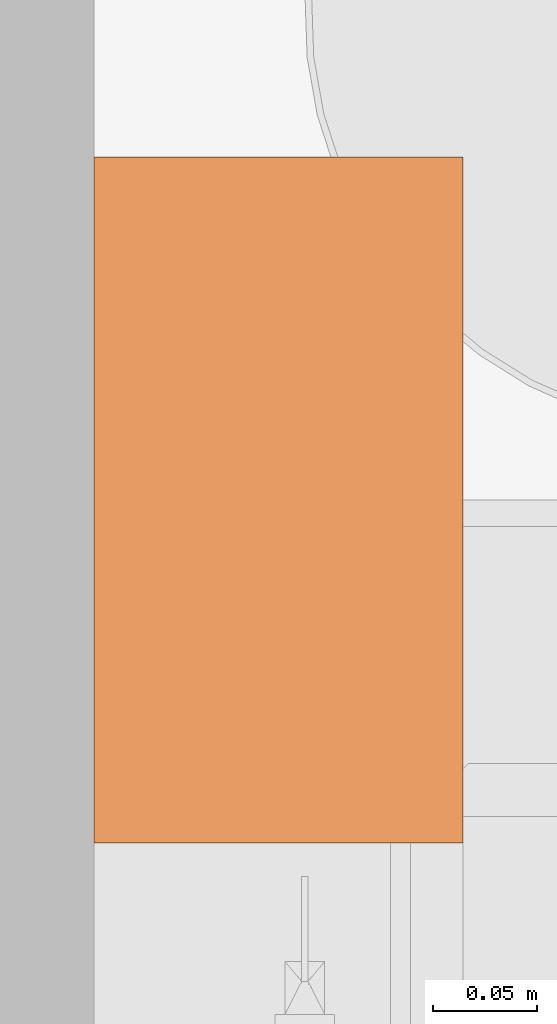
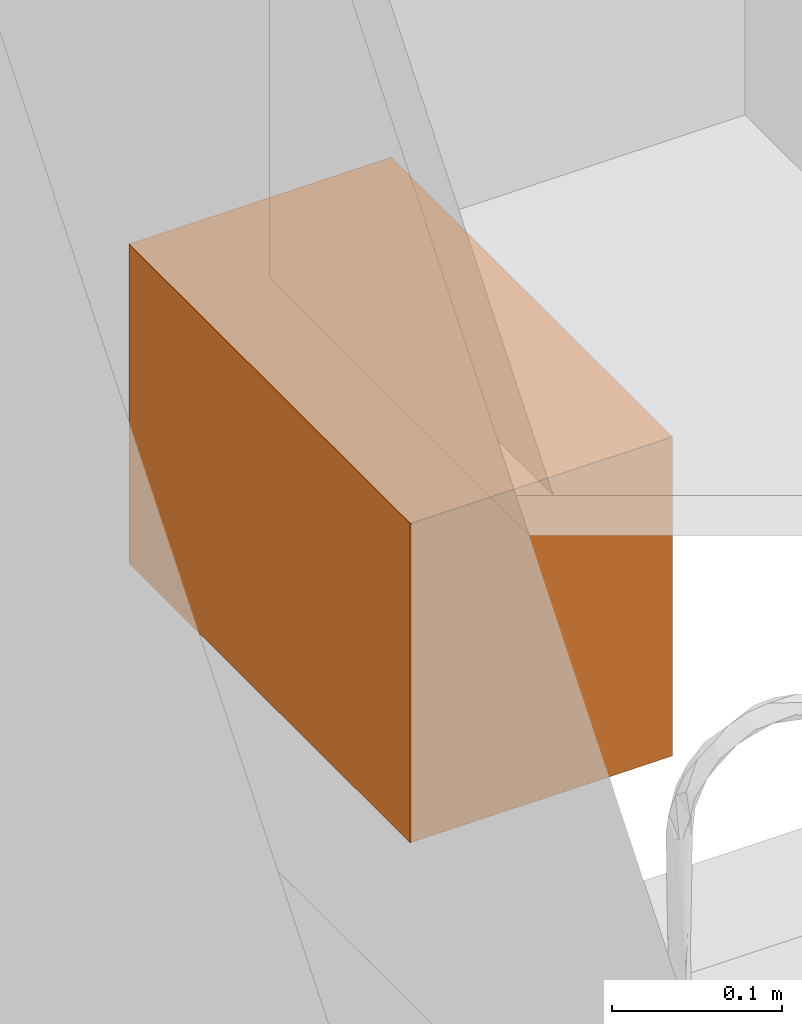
# One storey, part 109 of 142: 1 proxy.
"""IFC2X3 building model written with IfcOpenShell, lengths in feet."""

from ifc_helpers import new_model, entity, si_unit, converted_unit, derived_unit, direction, frame, frame_2d, origin, place, context, subcontext, project, spatial, rectangle, extrude, source, transform, mapped, type_object, type_shapes, element, save


model = new_model("IFC2X3")

# Units and contexts
model_context = context("Model", 3, precision=0.0001, world=origin(), true_north=direction((6.12303176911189e-17, 1.0)))
body_context = subcontext(model_context, "Body", "Model", "MODEL_VIEW")
ifc_project = project(units=[converted_unit("LENGTHUNIT", "FOOT", entity("IfcRatioMeasure", 0.3048), si_unit("LENGTHUNIT", "METRE"), dimensions=[1, 0, 0, 0, 0, 0, 0]), converted_unit("AREAUNIT", "SQUARE FOOT", entity("IfcRatioMeasure", 0.09290304), si_unit("AREAUNIT", "SQUARE_METRE"), dimensions=[2, 0, 0, 0, 0, 0, 0]), converted_unit("VOLUMEUNIT", "CUBIC FOOT", entity("IfcRatioMeasure", 0.028316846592), si_unit("VOLUMEUNIT", "CUBIC_METRE"), dimensions=[3, 0, 0, 0, 0, 0, 0]), converted_unit("PLANEANGLEUNIT", "DEGREE", entity("IfcRatioMeasure", 0.0174532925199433), si_unit("PLANEANGLEUNIT", "RADIAN"), dimensions=[0, 0, 0, 0, 0, 0, 0]), si_unit("MASSUNIT", "GRAM", prefix="KILO"), derived_unit("MASSDENSITYUNIT", [(si_unit("MASSUNIT", "GRAM", prefix="KILO"), 1), (si_unit("LENGTHUNIT", "METRE"), -3)]), si_unit("TIMEUNIT", "SECOND"), si_unit("FREQUENCYUNIT", "HERTZ"), si_unit("THERMODYNAMICTEMPERATUREUNIT", "DEGREE_CELSIUS"), derived_unit("THERMALTRANSMITTANCEUNIT", [(si_unit("MASSUNIT", "GRAM", prefix="KILO"), 1), (si_unit("THERMODYNAMICTEMPERATUREUNIT", "KELVIN"), -1), (si_unit("TIMEUNIT", "SECOND"), -3)]), derived_unit("VOLUMETRICFLOWRATEUNIT", [(si_unit("LENGTHUNIT", "METRE"), 3), (si_unit("TIMEUNIT", "SECOND"), -1)]), si_unit("ELECTRICCURRENTUNIT", "AMPERE"), si_unit("ELECTRICVOLTAGEUNIT", "VOLT"), si_unit("POWERUNIT", "WATT"), si_unit("FORCEUNIT", "NEWTON"), si_unit("ILLUMINANCEUNIT", "LUX"), si_unit("LUMINOUSFLUXUNIT", "LUMEN"), si_unit("LUMINOUSINTENSITYUNIT", "CANDELA"), derived_unit("USERDEFINED", [(si_unit("MASSUNIT", "GRAM", prefix="KILO"), -1), (si_unit("LENGTHUNIT", "METRE"), -2), (si_unit("TIMEUNIT", "SECOND"), 3), (si_unit("LUMINOUSFLUXUNIT", "LUMEN"), 1)]), derived_unit("LINEARVELOCITYUNIT", [(si_unit("LENGTHUNIT", "METRE"), 1), (si_unit("TIMEUNIT", "SECOND"), -1)]), si_unit("PRESSUREUNIT", "PASCAL"), derived_unit("USERDEFINED", [(si_unit("LENGTHUNIT", "METRE"), -2), (si_unit("MASSUNIT", "GRAM", prefix="KILO"), 1), (si_unit("TIMEUNIT", "SECOND"), -2)])], contexts=[model_context])

# Site, building, storey, space
site_placement = place(None, origin())
site = spatial("IfcSite", under=ifc_project, at=site_placement, Name="Default", CompositionType="ELEMENT")
building_placement = place(site_placement, origin())
building = spatial("IfcBuilding", under=site, at=building_placement, Name="OUTPATIENT / PACT CLINIC (Ch. 265)", CompositionType="ELEMENT")
storey_placement = place(building_placement, origin())
storey = spatial("IfcBuildingStorey", under=building, at=storey_placement, Name="LEVEL 1", CompositionType="ELEMENT", Elevation=0.0)
space_placement = place(storey_placement, origin())
space = spatial("IfcSpace", under=storey, at=space_placement, Name="EXPA1", CompositionType="ELEMENT", InteriorOrExteriorSpace="INTERNAL")

# Proxy
building_element_proxy_type = type_object("IfcBuildingElementProxyType", Name="A5080 - Dispenser, Paper Towel", PredefinedType="NOTDEFINED")
shared_shape = source(origin(), body_context, "Body", "SweptSolid", [
    extrude(rectangle(XDim=0.58333333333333, YDim=1.08333333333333, at=frame_2d((9.99200722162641e-16, 0.0), x_axis=(1.0, 0.0))), frame((0.0, -0.291666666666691, 0.0), z_axis=(0.0, 0.0, 1.0), x_axis=(0.0, 1.0, 0.0)), (0.0, 0.0, 1.0), 0.75),
])
type_shapes(building_element_proxy_type, [shared_shape])
proxy_placement = place(space_placement, frame((435.254976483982, -900.628851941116, 3.5), z_axis=(0.0, 0.0, 1.0), x_axis=(0.0, 1.0, 0.0)))
element("IfcBuildingElementProxy", 1, at=proxy_placement, inside=space, type_object=building_element_proxy_type, Name="A5080 - Dispenser, Paper Towel:A5080 - Dispenser, Paper Towel", ObjectType="A5080 - Dispenser, Paper Towel", context=body_context, shape_type="MappedRepresentation", body=[
    mapped(shared_shape, transform((0.0, 0.0, 0.0), scale=1.0)),
])

save(model, "model.ifc")
